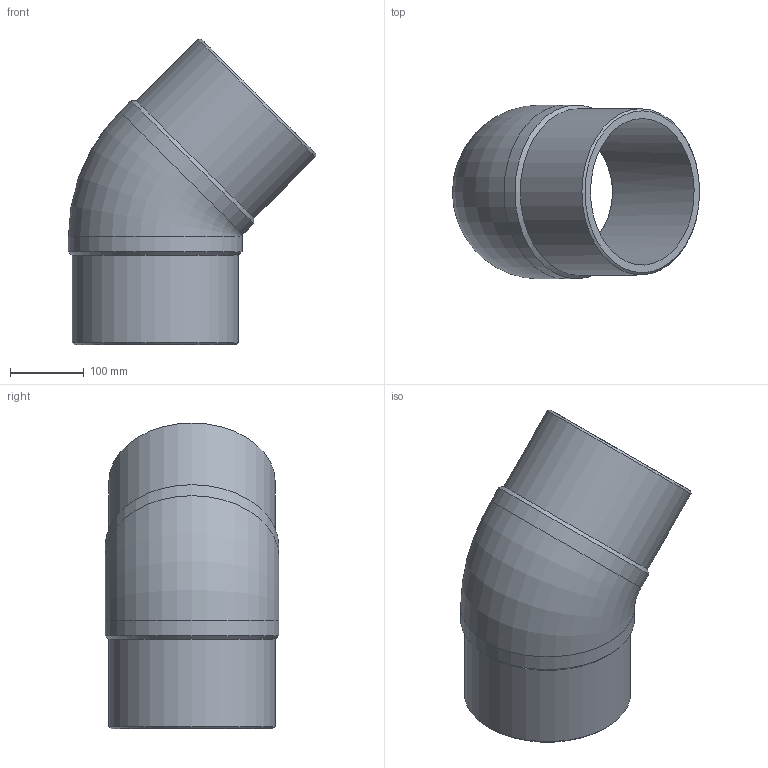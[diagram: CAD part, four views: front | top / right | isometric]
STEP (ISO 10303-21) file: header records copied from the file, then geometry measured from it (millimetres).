
FILE_DESCRIPTION(/* description */ ('Unknown'),/* implementation_level */ '2;1');
FILE_NAME(/* name */ 'G4P225B',/* time_stamp */ '2022-01-17T11:55:26+01:00',/* author */ ('Unknown'),/* organization */ ('Unknown'),/* preprocessor_version */ 'ST-DEVELOPER v18.1',/* originating_system */ 'Solid Edge',/* authorisation */ 'Unknown');
FILE_SCHEMA (('AUTOMOTIVE_DESIGN {1 0 10303 214 3 1 1}'));
Length unit declared in the file: millimetre
Products named in the file (1): G4P225B
Bounding box: 334.23 x 235 x 413.73 mm (x, y, z)
Volume: 3979204.6 mm3; surface area: 539826.6 mm2
Topology: 1 solids, 1 shells, 14 faces, 34 edges, 22 vertices
Faces by surface type: cylinder 6, cone 4, plane 2, torus 2
Full cylindrical faces by diameter (mm): 198.2 x2, 225 x2, 235 x2
Entity records: 368 total; most frequent: CARTESIAN_POINT 68, DIRECTION 60, ORIENTED_EDGE 38, AXIS2_PLACEMENT_3D 30, EDGE_LOOP 27, FACE_BOUND 27, EDGE_CURVE 19, VERTEX_POINT 18
